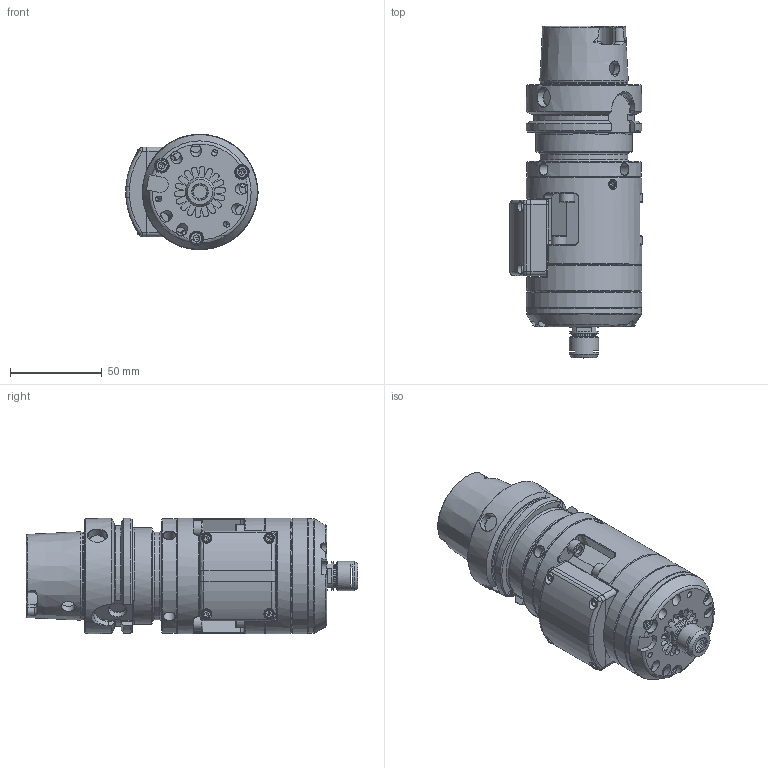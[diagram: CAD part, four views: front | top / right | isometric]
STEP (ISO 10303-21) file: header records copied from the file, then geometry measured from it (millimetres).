
FILE_DESCRIPTION (( 'STEP AP214' ), '1' );
FILE_NAME ('TJS GJET V4 HSK A63.STEP', '2025-06-18T13:16:04', ( 'pc' ), ( '' ), 'SwSTEP 2.0', 'SolidWorks 2024', '' );
FILE_SCHEMA (( 'AUTOMOTIVE_DESIGN' ));
Length unit declared in the file: millimetre
Products named in the file (1): TJS GJET V4 HSK A63
Bounding box: 72.25 x 181.3 x 63 mm (x, y, z)
Volume: 265670.1 mm3; surface area: 105566.2 mm2
Topology: 28 solids, 28 shells, 1536 faces, 3821 edges, 2373 vertices
Faces by surface type: plane 706, cylinder 385, cone 266, torus 122, bspline 57
Full cylindrical faces by diameter (mm): 2.5 x6, 3 x3, 3.3 x6, 4.2 x11, 4.3 x2, 4.5 x5, 5 x13, 5.5 x3, 5.8 x3, 6 x11, 6.2 x3, 6.4 x4, 6.5 x1, 7 x3, 7.5 x3, 7.65 x1, 7.8 x3, 8 x1, 8.5 x6, 10 x3, 11.21 x1, 11.3 x1, 12 x1, 12.2 x1, 12.3 x1, 13 x1, 13.2 x1, 15.5 x1, 16 x1, 16.2 x1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
Entity records: 55441 total; most frequent: CARTESIAN_POINT 21080, DIRECTION 6975, ORIENTED_EDGE 6780, EDGE_CURVE 3390, AXIS2_PLACEMENT_3D 2666, VERTEX_POINT 2250, EDGE_LOOP 1974, FACE_OUTER_BOUND 1717
